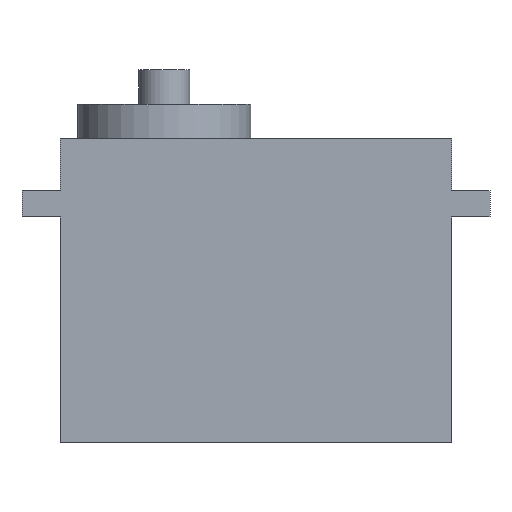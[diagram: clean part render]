
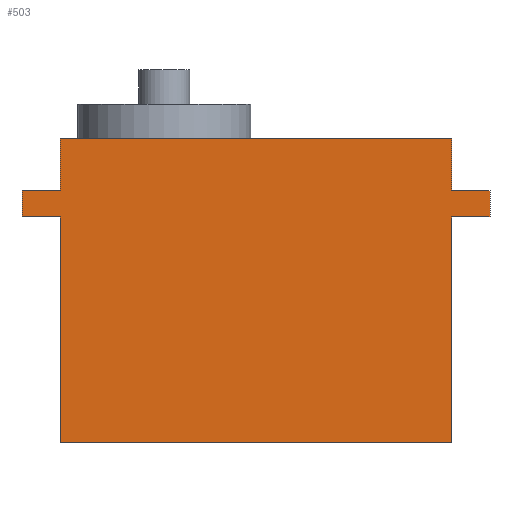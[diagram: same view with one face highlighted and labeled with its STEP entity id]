
A CAD part, front view. The second image highlights one B-rep face of the part: STEP entity #503.
In plain terms, the highlighted planar face has unit normal (0, -1, 0).
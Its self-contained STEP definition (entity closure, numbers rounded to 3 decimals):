
#21 = EDGE_CURVE('',#22,#24,#26,.T.);
#22 = VERTEX_POINT('',#23);
#23 = CARTESIAN_POINT('',(-12.,-12.35,-35.));
#24 = VERTEX_POINT('',#25);
#25 = CARTESIAN_POINT('',(-12.,-12.35,-9.));
#26 = LINE('',#27,#28);
#27 = CARTESIAN_POINT('',(-12.,-12.35,-35.));
#28 = VECTOR('',#29,1.);
#29 = DIRECTION('',(0.,0.,1.));
#70 = VERTEX_POINT('',#71);
#71 = CARTESIAN_POINT('',(-16.4,-12.35,-9.));
#77 = EDGE_CURVE('',#70,#24,#78,.T.);
#78 = LINE('',#79,#80);
#79 = CARTESIAN_POINT('',(-16.4,-12.35,-9.));
#80 = VECTOR('',#81,1.);
#81 = DIRECTION('',(1.,0.,-0.));
#104 = EDGE_CURVE('',#22,#105,#107,.T.);
#105 = VERTEX_POINT('',#106);
#106 = CARTESIAN_POINT('',(33.2,-12.35,-35.));
#107 = LINE('',#108,#109);
#108 = CARTESIAN_POINT('',(-12.,-12.35,-35.));
#109 = VECTOR('',#110,1.);
#110 = DIRECTION('',(1.,0.,-0.));
#134 = EDGE_CURVE('',#105,#135,#137,.T.);
#135 = VERTEX_POINT('',#136);
#136 = CARTESIAN_POINT('',(33.2,-12.35,-9.));
#137 = LINE('',#138,#139);
#138 = CARTESIAN_POINT('',(33.2,-12.35,-35.));
#139 = VECTOR('',#140,1.);
#140 = DIRECTION('',(0.,0.,1.));
#165 = EDGE_CURVE('',#70,#166,#168,.T.);
#166 = VERTEX_POINT('',#167);
#167 = CARTESIAN_POINT('',(-16.4,-12.35,-6.));
#168 = LINE('',#169,#170);
#169 = CARTESIAN_POINT('',(-16.4,-12.35,-9.));
#170 = VECTOR('',#171,1.);
#171 = DIRECTION('',(0.,0.,1.));
#230 = EDGE_CURVE('',#135,#231,#233,.T.);
#231 = VERTEX_POINT('',#232);
#232 = CARTESIAN_POINT('',(37.6,-12.35,-9.));
#233 = LINE('',#234,#235);
#234 = CARTESIAN_POINT('',(-16.4,-12.35,-9.));
#235 = VECTOR('',#236,1.);
#236 = DIRECTION('',(1.,0.,-0.));
#272 = EDGE_CURVE('',#166,#273,#275,.T.);
#273 = VERTEX_POINT('',#274);
#274 = CARTESIAN_POINT('',(-12.,-12.35,-6.));
#275 = LINE('',#276,#277);
#276 = CARTESIAN_POINT('',(-16.4,-12.35,-6.));
#277 = VECTOR('',#278,1.);
#278 = DIRECTION('',(1.,0.,-0.));
#297 = EDGE_CURVE('',#231,#298,#300,.T.);
#298 = VERTEX_POINT('',#299);
#299 = CARTESIAN_POINT('',(37.6,-12.35,-6.));
#300 = LINE('',#301,#302);
#301 = CARTESIAN_POINT('',(37.6,-12.35,-9.));
#302 = VECTOR('',#303,1.);
#303 = DIRECTION('',(0.,0.,1.));
#362 = VERTEX_POINT('',#363);
#363 = CARTESIAN_POINT('',(33.2,-12.35,-6.));
#369 = EDGE_CURVE('',#362,#298,#370,.T.);
#370 = LINE('',#371,#372);
#371 = CARTESIAN_POINT('',(-16.4,-12.35,-6.));
#372 = VECTOR('',#373,1.);
#373 = DIRECTION('',(1.,0.,-0.));
#387 = EDGE_CURVE('',#362,#388,#390,.T.);
#388 = VERTEX_POINT('',#389);
#389 = CARTESIAN_POINT('',(33.2,-12.35,0.));
#390 = LINE('',#391,#392);
#391 = CARTESIAN_POINT('',(33.2,-12.35,-35.));
#392 = VECTOR('',#393,1.);
#393 = DIRECTION('',(0.,0.,1.));
#419 = VERTEX_POINT('',#420);
#420 = CARTESIAN_POINT('',(-12.,-12.35,0.));
#428 = EDGE_CURVE('',#419,#388,#429,.T.);
#429 = LINE('',#430,#431);
#430 = CARTESIAN_POINT('',(-12.,-12.35,0.));
#431 = VECTOR('',#432,1.);
#432 = DIRECTION('',(1.,0.,-0.));
#460 = EDGE_CURVE('',#273,#419,#461,.T.);
#461 = LINE('',#462,#463);
#462 = CARTESIAN_POINT('',(-12.,-12.35,-35.));
#463 = VECTOR('',#464,1.);
#464 = DIRECTION('',(0.,0.,1.));
#503 = ADVANCED_FACE('',(#504),#518,.T.);
#504 = FACE_BOUND('',#505,.T.);
#505 = EDGE_LOOP('',(#506,#507,#508,#509,#510,#511,#512,#513,#514,#515,
    #516,#517));
#506 = ORIENTED_EDGE('',*,*,#134,.T.);
#507 = ORIENTED_EDGE('',*,*,#230,.T.);
#508 = ORIENTED_EDGE('',*,*,#297,.T.);
#509 = ORIENTED_EDGE('',*,*,#369,.F.);
#510 = ORIENTED_EDGE('',*,*,#387,.T.);
#511 = ORIENTED_EDGE('',*,*,#428,.F.);
#512 = ORIENTED_EDGE('',*,*,#460,.F.);
#513 = ORIENTED_EDGE('',*,*,#272,.F.);
#514 = ORIENTED_EDGE('',*,*,#165,.F.);
#515 = ORIENTED_EDGE('',*,*,#77,.T.);
#516 = ORIENTED_EDGE('',*,*,#21,.F.);
#517 = ORIENTED_EDGE('',*,*,#104,.T.);
#518 = PLANE('',#519);
#519 = AXIS2_PLACEMENT_3D('',#520,#521,#522);
#520 = CARTESIAN_POINT('',(10.6,-12.35,-16.511));
#521 = DIRECTION('',(-0.,-1.,-0.));
#522 = DIRECTION('',(0.,0.,-1.));
